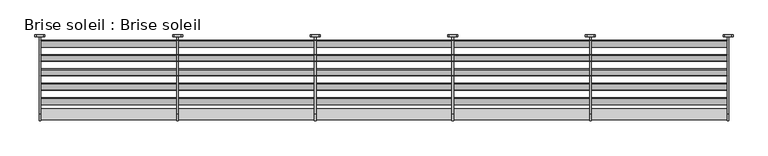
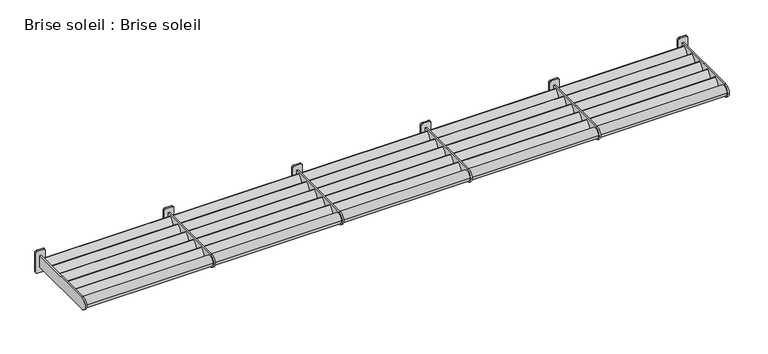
"""IFC4 building model written with IfcOpenShell, lengths in millimetres: proxy geometry, Brise soleil : Brise soleil."""

from ifc_helpers import new_model, si_unit, point, frame, frame_2d, origin, place, context, project, spatial, circle_curve, trimmed, segment, composite_curve, outline, extrude, source, transform, mapped, element, save
from ifc_brep_helpers import plane_surface, cylinder_surface, advanced_brep


def brise_soleil_brise_soleil_92fbaf2c(model_context):
    return source(origin(), model_context, "Body", "SolidModel", [
        advanced_brep(
        [(6637.2386116, -20.0, 1107.5), (6557.2386116, -20.0, 1107.5), (6537.2386116, -20.0, 1087.5), (6537.2386116, -20.0, 827.5), (6557.2386116, -20.0, 807.5), (6637.2386116, -20.0, 807.5), (6657.2386116, -20.0, 827.5), (6657.2386116, -20.0, 1087.5), (6607.2386116, -20.0, 1037.5), (6607.2386116, -20.0, 877.5), (6587.2386116, -20.0, 877.5), (6587.2386116, -20.0, 1037.5), (6637.2386116, 0.0, 1107.5), (6657.2386116, 0.0, 1087.5), (6657.2386116, 0.0, 827.5), (6637.2386116, 0.0, 807.5), (6557.2386116, 0.0, 807.5), (6537.2386116, 0.0, 827.5), (6537.2386116, 0.0, 1087.5), (6557.2386116, 0.0, 1107.5), (6607.2386116, -950.0, 1037.5), (6607.2386116, -950.0, 877.5), (6587.2386116, -950.0, 877.5), (6587.2386116, -950.0, 1037.5)],
        [
            (0, 1),
            (1, 2, circle_curve(frame((6557.2386116, -20.0, 1087.5), z_axis=(0.0, -1.0, 0.0), x_axis=(1.0, 0.0, 0.0)), 20.0)),
            (2, 3),
            (3, 4, circle_curve(frame((6557.2386116, -20.0, 827.5), z_axis=(0.0, -1.0, 0.0), x_axis=(1.0, 0.0, 0.0)), 20.0)),
            (4, 5),
            (5, 6, circle_curve(frame((6637.2386116, -20.0, 827.5), z_axis=(0.0, -1.0, 0.0), x_axis=(1.0, 0.0, 0.0)), 20.0)),
            (6, 7),
            (7, 0, circle_curve(frame((6637.2386116, -20.0, 1087.5), z_axis=(0.0, -1.0, 0.0), x_axis=(1.0, 0.0, 0.0)), 20.0)),
            (8, 9),
            (9, 10),
            (10, 11),
            (11, 8),
            (12, 13, circle_curve(frame((6637.2386116, 0.0, 1087.5), z_axis=(0.0, 1.0, 0.0), x_axis=(1.0, 0.0, 0.0)), 20.0)),
            (13, 14),
            (14, 15, circle_curve(frame((6637.2386116, 0.0, 827.5), z_axis=(0.0, 1.0, 0.0), x_axis=(1.0, 0.0, 0.0)), 20.0)),
            (15, 16),
            (16, 17, circle_curve(frame((6557.2386116, 0.0, 827.5), z_axis=(0.0, 1.0, 0.0), x_axis=(1.0, 0.0, 0.0)), 20.0)),
            (17, 18),
            (18, 19, circle_curve(frame((6557.2386116, 0.0, 1087.5), z_axis=(0.0, 1.0, 0.0), x_axis=(1.0, 0.0, 0.0)), 20.0)),
            (19, 12),
            (0, 12),
            (19, 1),
            (18, 2),
            (17, 3),
            (16, 4),
            (15, 5),
            (14, 6),
            (13, 7),
            (20, 21, circle_curve(frame((6607.2386116, -950.0, 957.5), z_axis=(1.0, 0.0, 0.0), x_axis=(0.0, 1.0, 0.0)), 80.0)),
            (21, 9),
            (8, 20),
            (22, 23, circle_curve(frame((6587.2386116, -950.0, 957.5), z_axis=(-1.0, 0.0, 0.0), x_axis=(0.0, 1.0, 0.0)), 80.0)),
            (23, 11),
            (10, 22),
            (20, 23),
            (22, 21),
        ],
        [
            plane_surface(frame((6476.6173054, -20.0, 1107.5), z_axis=(0.0, -1.0, 0.0), x_axis=(-1.0, 0.0, 0.0))),
            plane_surface(frame((6476.6173054, 0.0, 1107.5), z_axis=(0.0, 1.0, 0.0), x_axis=(1.0, 0.0, 0.0))),
            plane_surface(frame((6637.2386116, -20.0, 1107.5), z_axis=(0.0, 0.0, 1.0), x_axis=(0.0, 1.0, 0.0))),
            cylinder_surface(frame((6557.2386116, 0.0, 1087.5), z_axis=(0.0, -1.0, 0.0), x_axis=(1.0, 0.0, 0.0)), 20.0),
            plane_surface(frame((6537.2386116, -20.0, 1087.5), z_axis=(-1.0, 0.0, 0.0), x_axis=(0.0, 1.0, 0.0))),
            cylinder_surface(frame((6557.2386116, 0.0, 827.5), z_axis=(0.0, -1.0, 0.0), x_axis=(1.0, 0.0, 0.0)), 20.0),
            plane_surface(frame((6557.2386116, -20.0, 807.5), z_axis=(0.0, 0.0, -1.0), x_axis=(0.0, 1.0, 0.0))),
            cylinder_surface(frame((6637.2386116, 0.0, 827.5), z_axis=(0.0, -1.0, 0.0), x_axis=(1.0, 0.0, 0.0)), 20.0),
            plane_surface(frame((6657.2386116, -20.0, 827.5), z_axis=(1.0, 0.0, 0.0), x_axis=(0.0, 1.0, 0.0))),
            cylinder_surface(frame((6637.2386116, 0.0, 1087.5), z_axis=(0.0, -1.0, 0.0), x_axis=(1.0, 0.0, 0.0)), 20.0),
            plane_surface(frame((6607.2386116, -870.0, 957.5), z_axis=(1.0, 0.0, 0.0), x_axis=(0.0, 0.0, 1.0))),
            plane_surface(frame((6587.2386116, -870.0, 957.5), z_axis=(-1.0, 0.0, 0.0), x_axis=(0.0, 0.0, -1.0))),
            cylinder_surface(frame((6587.2386116, -950.0, 957.5), z_axis=(1.0, 0.0, 0.0), x_axis=(0.0, 1.0, 0.0)), 80.0),
            plane_surface(frame((6607.2386116, -950.0, 877.5), z_axis=(0.0, 0.0, -1.0), x_axis=(-1.0, 0.0, 0.0))),
            plane_surface(frame((6607.2386116, 0.0, 1037.5), z_axis=(0.0, 0.0, 1.0), x_axis=(-1.0, 0.0, 0.0))),
        ],
        [
            (0, [[1, 2, 3, 4, 5, 6, 7, 8], [9, 10, 11, 12]]),
            (1, [[13, 14, 15, 16, 17, 18, 19, 20]]),
            (2, [[-1, 21, -20, 22]]),
            (3, [[-2, -22, -19, 23]]),
            (4, [[-3, -23, -18, 24]]),
            (5, [[-4, -24, -17, 25]]),
            (6, [[-5, -25, -16, 26]]),
            (7, [[-6, -26, -15, 27]]),
            (8, [[-7, -27, -14, 28]]),
            (9, [[-8, -28, -13, -21]]),
            (10, [[29, 30, -9, 31]]),
            (11, [[32, 33, -11, 34]]),
            (12, [[-29, 35, -32, 36]]),
            (13, [[-36, -34, -10, -30]]),
            (14, [[-35, -31, -12, -33]]),
        ],
    ),
        advanced_brep(
        [(4990.4289587, -20.0, 1107.5), (4910.4289587, -20.0, 1107.5), (4890.4289587, -20.0, 1087.5), (4890.4289587, -20.0, 827.5), (4910.4289587, -20.0, 807.5), (4990.4289587, -20.0, 807.5), (5010.4289587, -20.0, 827.5), (5010.4289587, -20.0, 1087.5), (4960.4289587, -20.0, 1037.5), (4960.4289587, -20.0, 877.5), (4940.4289587, -20.0, 877.5), (4940.4289587, -20.0, 1037.5), (4990.4289587, 0.0, 1107.5), (5010.4289587, 0.0, 1087.5), (5010.4289587, 0.0, 827.5), (4990.4289587, 0.0, 807.5), (4910.4289587, 0.0, 807.5), (4890.4289587, 0.0, 827.5), (4890.4289587, 0.0, 1087.5), (4910.4289587, 0.0, 1107.5), (4960.4289587, -950.0, 1037.5), (4960.4289587, -950.0, 877.5), (4940.4289587, -950.0, 877.5), (4940.4289587, -950.0, 1037.5)],
        [
            (0, 1),
            (1, 2, circle_curve(frame((4910.4289587, -20.0, 1087.5), z_axis=(0.0, -1.0, 0.0), x_axis=(1.0, 0.0, 0.0)), 20.0)),
            (2, 3),
            (3, 4, circle_curve(frame((4910.4289587, -20.0, 827.5), z_axis=(0.0, -1.0, 0.0), x_axis=(1.0, 0.0, 0.0)), 20.0)),
            (4, 5),
            (5, 6, circle_curve(frame((4990.4289587, -20.0, 827.5), z_axis=(0.0, -1.0, 0.0), x_axis=(1.0, 0.0, 0.0)), 20.0)),
            (6, 7),
            (7, 0, circle_curve(frame((4990.4289587, -20.0, 1087.5), z_axis=(0.0, -1.0, 0.0), x_axis=(1.0, 0.0, 0.0)), 20.0)),
            (8, 9),
            (9, 10),
            (10, 11),
            (11, 8),
            (12, 13, circle_curve(frame((4990.4289587, 0.0, 1087.5), z_axis=(0.0, 1.0, 0.0), x_axis=(1.0, 0.0, 0.0)), 20.0)),
            (13, 14),
            (14, 15, circle_curve(frame((4990.4289587, 0.0, 827.5), z_axis=(0.0, 1.0, 0.0), x_axis=(1.0, 0.0, 0.0)), 20.0)),
            (15, 16),
            (16, 17, circle_curve(frame((4910.4289587, 0.0, 827.5), z_axis=(0.0, 1.0, 0.0), x_axis=(1.0, 0.0, 0.0)), 20.0)),
            (17, 18),
            (18, 19, circle_curve(frame((4910.4289587, 0.0, 1087.5), z_axis=(0.0, 1.0, 0.0), x_axis=(1.0, 0.0, 0.0)), 20.0)),
            (19, 12),
            (0, 12),
            (19, 1),
            (18, 2),
            (17, 3),
            (16, 4),
            (15, 5),
            (14, 6),
            (13, 7),
            (20, 21, circle_curve(frame((4960.4289587, -950.0, 957.5), z_axis=(1.0, 0.0, 0.0), x_axis=(0.0, 1.0, 0.0)), 80.0)),
            (21, 9),
            (8, 20),
            (22, 23, circle_curve(frame((4940.4289587, -950.0, 957.5), z_axis=(-1.0, 0.0, 0.0), x_axis=(0.0, 1.0, 0.0)), 80.0)),
            (23, 11),
            (10, 22),
            (20, 23),
            (22, 21),
        ],
        [
            plane_surface(frame((4829.8076525, -20.0, 1107.5), z_axis=(0.0, -1.0, 0.0), x_axis=(-1.0, 0.0, 0.0))),
            plane_surface(frame((4829.8076525, 0.0, 1107.5), z_axis=(0.0, 1.0, 0.0), x_axis=(1.0, 0.0, 0.0))),
            plane_surface(frame((4990.4289587, -20.0, 1107.5), z_axis=(0.0, 0.0, 1.0), x_axis=(0.0, 1.0, 0.0))),
            cylinder_surface(frame((4910.4289587, 0.0, 1087.5), z_axis=(0.0, -1.0, 0.0), x_axis=(1.0, 0.0, 0.0)), 20.0),
            plane_surface(frame((4890.4289587, -20.0, 1087.5), z_axis=(-1.0, 0.0, 0.0), x_axis=(0.0, 1.0, 0.0))),
            cylinder_surface(frame((4910.4289587, 0.0, 827.5), z_axis=(0.0, -1.0, 0.0), x_axis=(1.0, 0.0, 0.0)), 20.0),
            plane_surface(frame((4910.4289587, -20.0, 807.5), z_axis=(0.0, 0.0, -1.0), x_axis=(0.0, 1.0, 0.0))),
            cylinder_surface(frame((4990.4289587, 0.0, 827.5), z_axis=(0.0, -1.0, 0.0), x_axis=(1.0, 0.0, 0.0)), 20.0),
            plane_surface(frame((5010.4289587, -20.0, 827.5), z_axis=(1.0, 0.0, 0.0), x_axis=(0.0, 1.0, 0.0))),
            cylinder_surface(frame((4990.4289587, 0.0, 1087.5), z_axis=(0.0, -1.0, 0.0), x_axis=(1.0, 0.0, 0.0)), 20.0),
            plane_surface(frame((4960.4289587, -870.0, 957.5), z_axis=(1.0, 0.0, 0.0), x_axis=(0.0, 0.0, 1.0))),
            plane_surface(frame((4940.4289587, -870.0, 957.5), z_axis=(-1.0, 0.0, 0.0), x_axis=(0.0, 0.0, -1.0))),
            cylinder_surface(frame((4940.4289587, -950.0, 957.5), z_axis=(1.0, 0.0, 0.0), x_axis=(0.0, 1.0, 0.0)), 80.0),
            plane_surface(frame((4960.4289587, -950.0, 877.5), z_axis=(0.0, 0.0, -1.0), x_axis=(-1.0, 0.0, 0.0))),
            plane_surface(frame((4960.4289587, 0.0, 1037.5), z_axis=(0.0, 0.0, 1.0), x_axis=(-1.0, 0.0, 0.0))),
        ],
        [
            (0, [[1, 2, 3, 4, 5, 6, 7, 8], [9, 10, 11, 12]]),
            (1, [[13, 14, 15, 16, 17, 18, 19, 20]]),
            (2, [[-1, 21, -20, 22]]),
            (3, [[-2, -22, -19, 23]]),
            (4, [[-3, -23, -18, 24]]),
            (5, [[-4, -24, -17, 25]]),
            (6, [[-5, -25, -16, 26]]),
            (7, [[-6, -26, -15, 27]]),
            (8, [[-7, -27, -14, 28]]),
            (9, [[-8, -28, -13, -21]]),
            (10, [[29, 30, -9, 31]]),
            (11, [[32, 33, -11, 34]]),
            (12, [[-29, 35, -32, 36]]),
            (13, [[-36, -34, -10, -30]]),
            (14, [[-35, -31, -12, -33]]),
        ],
    ),
        advanced_brep(
        [(3343.6193058, -20.0, 1107.5), (3263.6193058, -20.0, 1107.5), (3243.6193058, -20.0, 1087.5), (3243.6193058, -20.0, 827.5), (3263.6193058, -20.0, 807.5), (3343.6193058, -20.0, 807.5), (3363.6193058, -20.0, 827.5), (3363.6193058, -20.0, 1087.5), (3313.6193058, -20.0, 1037.5), (3313.6193058, -20.0, 877.5), (3293.6193058, -20.0, 877.5), (3293.6193058, -20.0, 1037.5), (3343.6193058, 0.0, 1107.5), (3363.6193058, 0.0, 1087.5), (3363.6193058, 0.0, 827.5), (3343.6193058, 0.0, 807.5), (3263.6193058, 0.0, 807.5), (3243.6193058, 0.0, 827.5), (3243.6193058, 0.0, 1087.5), (3263.6193058, 0.0, 1107.5), (3313.6193058, -950.0, 1037.5), (3313.6193058, -950.0, 877.5), (3293.6193058, -950.0, 877.5), (3293.6193058, -950.0, 1037.5)],
        [
            (0, 1),
            (1, 2, circle_curve(frame((3263.6193058, -20.0, 1087.5), z_axis=(0.0, -1.0, 0.0), x_axis=(1.0, 0.0, 0.0)), 20.0)),
            (2, 3),
            (3, 4, circle_curve(frame((3263.6193058, -20.0, 827.5), z_axis=(0.0, -1.0, 0.0), x_axis=(1.0, 0.0, 0.0)), 20.0)),
            (4, 5),
            (5, 6, circle_curve(frame((3343.6193058, -20.0, 827.5), z_axis=(0.0, -1.0, 0.0), x_axis=(1.0, 0.0, 0.0)), 20.0)),
            (6, 7),
            (7, 0, circle_curve(frame((3343.6193058, -20.0, 1087.5), z_axis=(0.0, -1.0, 0.0), x_axis=(1.0, 0.0, 0.0)), 20.0)),
            (8, 9),
            (9, 10),
            (10, 11),
            (11, 8),
            (12, 13, circle_curve(frame((3343.6193058, 0.0, 1087.5), z_axis=(0.0, 1.0, 0.0), x_axis=(1.0, 0.0, 0.0)), 20.0)),
            (13, 14),
            (14, 15, circle_curve(frame((3343.6193058, 0.0, 827.5), z_axis=(0.0, 1.0, 0.0), x_axis=(1.0, 0.0, 0.0)), 20.0)),
            (15, 16),
            (16, 17, circle_curve(frame((3263.6193058, 0.0, 827.5), z_axis=(0.0, 1.0, 0.0), x_axis=(1.0, 0.0, 0.0)), 20.0)),
            (17, 18),
            (18, 19, circle_curve(frame((3263.6193058, 0.0, 1087.5), z_axis=(0.0, 1.0, 0.0), x_axis=(1.0, 0.0, 0.0)), 20.0)),
            (19, 12),
            (0, 12),
            (19, 1),
            (18, 2),
            (17, 3),
            (16, 4),
            (15, 5),
            (14, 6),
            (13, 7),
            (20, 21, circle_curve(frame((3313.6193058, -950.0, 957.5), z_axis=(1.0, 0.0, 0.0), x_axis=(0.0, 1.0, 0.0)), 80.0)),
            (21, 9),
            (8, 20),
            (22, 23, circle_curve(frame((3293.6193058, -950.0, 957.5), z_axis=(-1.0, 0.0, 0.0), x_axis=(0.0, 1.0, 0.0)), 80.0)),
            (23, 11),
            (10, 22),
            (20, 23),
            (22, 21),
        ],
        [
            plane_surface(frame((3182.9979996, -20.0, 1107.5), z_axis=(0.0, -1.0, 0.0), x_axis=(-1.0, 0.0, 0.0))),
            plane_surface(frame((3182.9979996, 0.0, 1107.5), z_axis=(0.0, 1.0, 0.0), x_axis=(1.0, 0.0, 0.0))),
            plane_surface(frame((3343.6193058, -20.0, 1107.5), z_axis=(0.0, 0.0, 1.0), x_axis=(0.0, 1.0, 0.0))),
            cylinder_surface(frame((3263.6193058, 0.0, 1087.5), z_axis=(0.0, -1.0, 0.0), x_axis=(1.0, 0.0, 0.0)), 20.0),
            plane_surface(frame((3243.6193058, -20.0, 1087.5), z_axis=(-1.0, 0.0, 0.0), x_axis=(0.0, 1.0, 0.0))),
            cylinder_surface(frame((3263.6193058, 0.0, 827.5), z_axis=(0.0, -1.0, 0.0), x_axis=(1.0, 0.0, 0.0)), 20.0),
            plane_surface(frame((3263.6193058, -20.0, 807.5), z_axis=(0.0, 0.0, -1.0), x_axis=(0.0, 1.0, 0.0))),
            cylinder_surface(frame((3343.6193058, 0.0, 827.5), z_axis=(0.0, -1.0, 0.0), x_axis=(1.0, 0.0, 0.0)), 20.0),
            plane_surface(frame((3363.6193058, -20.0, 827.5), z_axis=(1.0, 0.0, 0.0), x_axis=(0.0, 1.0, 0.0))),
            cylinder_surface(frame((3343.6193058, 0.0, 1087.5), z_axis=(0.0, -1.0, 0.0), x_axis=(1.0, 0.0, 0.0)), 20.0),
            plane_surface(frame((3313.6193058, -870.0, 957.5), z_axis=(1.0, 0.0, 0.0), x_axis=(0.0, 0.0, 1.0))),
            plane_surface(frame((3293.6193058, -870.0, 957.5), z_axis=(-1.0, 0.0, 0.0), x_axis=(0.0, 0.0, -1.0))),
            cylinder_surface(frame((3293.6193058, -950.0, 957.5), z_axis=(1.0, 0.0, 0.0), x_axis=(0.0, 1.0, 0.0)), 80.0),
            plane_surface(frame((3313.6193058, -950.0, 877.5), z_axis=(0.0, 0.0, -1.0), x_axis=(-1.0, 0.0, 0.0))),
            plane_surface(frame((3313.6193058, 0.0, 1037.5), z_axis=(0.0, 0.0, 1.0), x_axis=(-1.0, 0.0, 0.0))),
        ],
        [
            (0, [[1, 2, 3, 4, 5, 6, 7, 8], [9, 10, 11, 12]]),
            (1, [[13, 14, 15, 16, 17, 18, 19, 20]]),
            (2, [[-1, 21, -20, 22]]),
            (3, [[-2, -22, -19, 23]]),
            (4, [[-3, -23, -18, 24]]),
            (5, [[-4, -24, -17, 25]]),
            (6, [[-5, -25, -16, 26]]),
            (7, [[-6, -26, -15, 27]]),
            (8, [[-7, -27, -14, 28]]),
            (9, [[-8, -28, -13, -21]]),
            (10, [[29, 30, -9, 31]]),
            (11, [[32, 33, -11, 34]]),
            (12, [[-29, 35, -32, 36]]),
            (13, [[-36, -34, -10, -30]]),
            (14, [[-35, -31, -12, -33]]),
        ],
    ),
        advanced_brep(
        [(1696.8096529, -20.0, 1107.5), (1616.8096529, -20.0, 1107.5), (1596.8096529, -20.0, 1087.5), (1596.8096529, -20.0, 827.5), (1616.8096529, -20.0, 807.5), (1696.8096529, -20.0, 807.5), (1716.8096529, -20.0, 827.5), (1716.8096529, -20.0, 1087.5), (1666.8096529, -20.0, 1037.5), (1666.8096529, -20.0, 877.5), (1646.8096529, -20.0, 877.5), (1646.8096529, -20.0, 1037.5), (1696.8096529, 0.0, 1107.5), (1716.8096529, 0.0, 1087.5), (1716.8096529, 0.0, 827.5), (1696.8096529, 0.0, 807.5), (1616.8096529, 0.0, 807.5), (1596.8096529, 0.0, 827.5), (1596.8096529, 0.0, 1087.5), (1616.8096529, 0.0, 1107.5), (1666.8096529, -950.0, 1037.5), (1666.8096529, -950.0, 877.5), (1646.8096529, -950.0, 877.5), (1646.8096529, -950.0, 1037.5)],
        [
            (0, 1),
            (1, 2, circle_curve(frame((1616.8096529, -20.0, 1087.5), z_axis=(0.0, -1.0, 0.0), x_axis=(1.0, 0.0, 0.0)), 20.0)),
            (2, 3),
            (3, 4, circle_curve(frame((1616.8096529, -20.0, 827.5), z_axis=(0.0, -1.0, 0.0), x_axis=(1.0, 0.0, 0.0)), 20.0)),
            (4, 5),
            (5, 6, circle_curve(frame((1696.8096529, -20.0, 827.5), z_axis=(0.0, -1.0, 0.0), x_axis=(1.0, 0.0, 0.0)), 20.0)),
            (6, 7),
            (7, 0, circle_curve(frame((1696.8096529, -20.0, 1087.5), z_axis=(0.0, -1.0, 0.0), x_axis=(1.0, 0.0, 0.0)), 20.0)),
            (8, 9),
            (9, 10),
            (10, 11),
            (11, 8),
            (12, 13, circle_curve(frame((1696.8096529, 0.0, 1087.5), z_axis=(0.0, 1.0, 0.0), x_axis=(1.0, 0.0, 0.0)), 20.0)),
            (13, 14),
            (14, 15, circle_curve(frame((1696.8096529, 0.0, 827.5), z_axis=(0.0, 1.0, 0.0), x_axis=(1.0, 0.0, 0.0)), 20.0)),
            (15, 16),
            (16, 17, circle_curve(frame((1616.8096529, 0.0, 827.5), z_axis=(0.0, 1.0, 0.0), x_axis=(1.0, 0.0, 0.0)), 20.0)),
            (17, 18),
            (18, 19, circle_curve(frame((1616.8096529, 0.0, 1087.5), z_axis=(0.0, 1.0, 0.0), x_axis=(1.0, 0.0, 0.0)), 20.0)),
            (19, 12),
            (0, 12),
            (19, 1),
            (18, 2),
            (17, 3),
            (16, 4),
            (15, 5),
            (14, 6),
            (13, 7),
            (20, 21, circle_curve(frame((1666.8096529, -950.0, 957.5), z_axis=(1.0, 0.0, 0.0), x_axis=(0.0, 1.0, 0.0)), 80.0)),
            (21, 9),
            (8, 20),
            (22, 23, circle_curve(frame((1646.8096529, -950.0, 957.5), z_axis=(-1.0, 0.0, 0.0), x_axis=(0.0, 1.0, 0.0)), 80.0)),
            (23, 11),
            (10, 22),
            (20, 23),
            (22, 21),
        ],
        [
            plane_surface(frame((1536.1883467, -20.0, 1107.5), z_axis=(0.0, -1.0, 0.0), x_axis=(-1.0, 0.0, 0.0))),
            plane_surface(frame((1536.1883467, 0.0, 1107.5), z_axis=(0.0, 1.0, 0.0), x_axis=(1.0, 0.0, 0.0))),
            plane_surface(frame((1696.8096529, -20.0, 1107.5), z_axis=(0.0, 0.0, 1.0), x_axis=(0.0, 1.0, 0.0))),
            cylinder_surface(frame((1616.8096529, 0.0, 1087.5), z_axis=(0.0, -1.0, 0.0), x_axis=(1.0, 0.0, 0.0)), 20.0),
            plane_surface(frame((1596.8096529, -20.0, 1087.5), z_axis=(-1.0, 0.0, 0.0), x_axis=(0.0, 1.0, 0.0))),
            cylinder_surface(frame((1616.8096529, 0.0, 827.5), z_axis=(0.0, -1.0, 0.0), x_axis=(1.0, 0.0, 0.0)), 20.0),
            plane_surface(frame((1616.8096529, -20.0, 807.5), z_axis=(0.0, 0.0, -1.0), x_axis=(0.0, 1.0, 0.0))),
            cylinder_surface(frame((1696.8096529, 0.0, 827.5), z_axis=(0.0, -1.0, 0.0), x_axis=(1.0, 0.0, 0.0)), 20.0),
            plane_surface(frame((1716.8096529, -20.0, 827.5), z_axis=(1.0, 0.0, 0.0), x_axis=(0.0, 1.0, 0.0))),
            cylinder_surface(frame((1696.8096529, 0.0, 1087.5), z_axis=(0.0, -1.0, 0.0), x_axis=(1.0, 0.0, 0.0)), 20.0),
            plane_surface(frame((1666.8096529, -870.0, 957.5), z_axis=(1.0, 0.0, 0.0), x_axis=(0.0, 0.0, 1.0))),
            plane_surface(frame((1646.8096529, -870.0, 957.5), z_axis=(-1.0, 0.0, 0.0), x_axis=(0.0, 0.0, -1.0))),
            cylinder_surface(frame((1646.8096529, -950.0, 957.5), z_axis=(1.0, 0.0, 0.0), x_axis=(0.0, 1.0, 0.0)), 80.0),
            plane_surface(frame((1666.8096529, -950.0, 877.5), z_axis=(0.0, 0.0, -1.0), x_axis=(-1.0, 0.0, 0.0))),
            plane_surface(frame((1666.8096529, 0.0, 1037.5), z_axis=(0.0, 0.0, 1.0), x_axis=(-1.0, 0.0, 0.0))),
        ],
        [
            (0, [[1, 2, 3, 4, 5, 6, 7, 8], [9, 10, 11, 12]]),
            (1, [[13, 14, 15, 16, 17, 18, 19, 20]]),
            (2, [[-1, 21, -20, 22]]),
            (3, [[-2, -22, -19, 23]]),
            (4, [[-3, -23, -18, 24]]),
            (5, [[-4, -24, -17, 25]]),
            (6, [[-5, -25, -16, 26]]),
            (7, [[-6, -26, -15, 27]]),
            (8, [[-7, -27, -14, 28]]),
            (9, [[-8, -28, -13, -21]]),
            (10, [[29, 30, -9, 31]]),
            (11, [[32, 33, -11, 34]]),
            (12, [[-29, 35, -32, 36]]),
            (13, [[-36, -34, -10, -30]]),
            (14, [[-35, -31, -12, -33]]),
        ],
    ),
        extrude(outline(composite_curve([segment(trimmed(circle_curve(frame_2d((-131.1196352, 870.0937882)), 187.4135018), [point((-317.3614097, 891.0179864))], [point((-242.3614097, 1020.921797))], False, "CARTESIAN"), True, "CONTINUOUS"), segment(trimmed(circle_curve(frame_2d((-239.3935933, 1016.8978604)), 5.0), [point((-242.3614097, 1020.921797))], [point((-236.4257768, 1012.8739239))], False, "CARTESIAN"), True, "CONTINUOUS"), segment(trimmed(circle_curve(frame_2d((-131.1196352, 870.0937882)), 177.4135018), [point((-236.4257768, 1012.8739239))], [point((-307.4239307, 889.9015141))], True, "CARTESIAN"), True, "CONTINUOUS"), segment(trimmed(circle_curve(frame_2d((-312.3926702, 890.4597503)), 5.0), [point((-307.4239307, 889.9015141))], [point((-317.3614097, 891.0179864))], False, "CARTESIAN"), True, "CONTINUOUS")], self_intersect=False)), frame((20.0, 0.0, 0.0), z_axis=(1.0, 0.0, 0.0), x_axis=(0.0, 1.0, 0.0)), (0.0, 0.0, 1.0), 8214.0482645),
        extrude(outline(composite_curve([segment(trimmed(circle_curve(frame_2d((-303.6196352, 870.0937882)), 187.4135018), [point((-489.8614097, 891.0179864))], [point((-414.8614097, 1020.921797))], False, "CARTESIAN"), True, "CONTINUOUS"), segment(trimmed(circle_curve(frame_2d((-411.8935933, 1016.8978604)), 5.0), [point((-414.8614097, 1020.921797))], [point((-408.9257768, 1012.8739239))], False, "CARTESIAN"), True, "CONTINUOUS"), segment(trimmed(circle_curve(frame_2d((-303.6196352, 870.0937882)), 177.4135018), [point((-408.9257768, 1012.8739239))], [point((-479.9239307, 889.9015141))], True, "CARTESIAN"), True, "CONTINUOUS"), segment(trimmed(circle_curve(frame_2d((-484.8926702, 890.4597503)), 5.0), [point((-479.9239307, 889.9015141))], [point((-489.8614097, 891.0179864))], False, "CARTESIAN"), True, "CONTINUOUS")], self_intersect=False)), frame((20.0, 0.0, 0.0), z_axis=(1.0, 0.0, 0.0), x_axis=(0.0, 1.0, 0.0)), (0.0, 0.0, 1.0), 8214.0482645),
        extrude(outline(composite_curve([segment(trimmed(circle_curve(frame_2d((-476.1196352, 870.0937882)), 187.4135018), [point((-662.3614097, 891.0179864))], [point((-587.3614097, 1020.921797))], False, "CARTESIAN"), True, "CONTINUOUS"), segment(trimmed(circle_curve(frame_2d((-584.3935933, 1016.8978604)), 5.0), [point((-587.3614097, 1020.921797))], [point((-581.4257768, 1012.8739239))], False, "CARTESIAN"), True, "CONTINUOUS"), segment(trimmed(circle_curve(frame_2d((-476.1196352, 870.0937882)), 177.4135018), [point((-581.4257768, 1012.8739239))], [point((-652.4239307, 889.9015141))], True, "CARTESIAN"), True, "CONTINUOUS"), segment(trimmed(circle_curve(frame_2d((-657.3926702, 890.4597503)), 5.0), [point((-652.4239307, 889.9015141))], [point((-662.3614097, 891.0179864))], False, "CARTESIAN"), True, "CONTINUOUS")], self_intersect=False)), frame((20.0, 0.0, 0.0), z_axis=(1.0, 0.0, 0.0), x_axis=(0.0, 1.0, 0.0)), (0.0, 0.0, 1.0), 8214.0482645),
        extrude(outline(composite_curve([segment(trimmed(circle_curve(frame_2d((41.3803648, 870.0937882)), 187.4135018), [point((-144.8614097, 891.0179864))], [point((-69.8614097, 1020.921797))], False, "CARTESIAN"), True, "CONTINUOUS"), segment(trimmed(circle_curve(frame_2d((-66.8935933, 1016.8978604)), 5.0), [point((-69.8614097, 1020.921797))], [point((-63.9257768, 1012.8739239))], False, "CARTESIAN"), True, "CONTINUOUS"), segment(trimmed(circle_curve(frame_2d((41.3803648, 870.0937882)), 177.4135018), [point((-63.9257768, 1012.8739239))], [point((-134.9239307, 889.9015141))], True, "CARTESIAN"), True, "CONTINUOUS"), segment(trimmed(circle_curve(frame_2d((-139.8926702, 890.4597503)), 5.0), [point((-134.9239307, 889.9015141))], [point((-144.8614097, 891.0179864))], False, "CARTESIAN"), True, "CONTINUOUS")], self_intersect=False)), frame((20.0, 0.0, 0.0), z_axis=(1.0, 0.0, 0.0), x_axis=(0.0, 1.0, 0.0)), (0.0, 0.0, 1.0), 8214.0482645),
        extrude(outline(composite_curve([segment(trimmed(circle_curve(frame_2d((-648.6196352, 870.0937882)), 187.4135018), [point((-834.8614097, 891.0179864))], [point((-759.8614097, 1020.921797))], False, "CARTESIAN"), True, "CONTINUOUS"), segment(trimmed(circle_curve(frame_2d((-756.8935933, 1016.8978604)), 5.0), [point((-759.8614097, 1020.921797))], [point((-753.9257768, 1012.8739239))], False, "CARTESIAN"), True, "CONTINUOUS"), segment(trimmed(circle_curve(frame_2d((-648.6196352, 870.0937882)), 177.4135018), [point((-753.9257768, 1012.8739239))], [point((-824.9239307, 889.9015141))], True, "CARTESIAN"), True, "CONTINUOUS"), segment(trimmed(circle_curve(frame_2d((-829.8926702, 890.4597503)), 5.0), [point((-824.9239307, 889.9015141))], [point((-834.8614097, 891.0179864))], False, "CARTESIAN"), True, "CONTINUOUS")], self_intersect=False)), frame((20.0, 0.0, 0.0), z_axis=(1.0, 0.0, 0.0), x_axis=(0.0, 1.0, 0.0)), (0.0, 0.0, 1.0), 8214.0482645),
        advanced_brep(
        [(8284.0482645, -20.0, 1107.5), (8204.0482645, -20.0, 1107.5), (8184.0482645, -20.0, 1087.5), (8184.0482645, -20.0, 827.5), (8204.0482645, -20.0, 807.5), (8284.0482645, -20.0, 807.5), (8304.0482645, -20.0, 827.5), (8304.0482645, -20.0, 1087.5), (8254.0482645, -20.0, 1037.5), (8254.0482645, -20.0, 877.5), (8234.0482645, -20.0, 877.5), (8234.0482645, -20.0, 1037.5), (8284.0482645, 0.0, 1107.5), (8304.0482645, 0.0, 1087.5), (8304.0482645, 0.0, 827.5), (8284.0482645, 0.0, 807.5), (8204.0482645, 0.0, 807.5), (8184.0482645, 0.0, 827.5), (8184.0482645, 0.0, 1087.5), (8204.0482645, 0.0, 1107.5), (8254.0482645, -950.0, 1037.5), (8254.0482645, -950.0, 877.5), (8234.0482645, -950.0, 877.5), (8234.0482645, -950.0, 1037.5)],
        [
            (0, 1),
            (1, 2, circle_curve(frame((8204.0482645, -20.0, 1087.5), z_axis=(0.0, -1.0, 0.0), x_axis=(1.0, 0.0, 0.0)), 20.0)),
            (2, 3),
            (3, 4, circle_curve(frame((8204.0482645, -20.0, 827.5), z_axis=(0.0, -1.0, 0.0), x_axis=(1.0, 0.0, 0.0)), 20.0)),
            (4, 5),
            (5, 6, circle_curve(frame((8284.0482645, -20.0, 827.5), z_axis=(0.0, -1.0, 0.0), x_axis=(1.0, 0.0, 0.0)), 20.0)),
            (6, 7),
            (7, 0, circle_curve(frame((8284.0482645, -20.0, 1087.5), z_axis=(0.0, -1.0, 0.0), x_axis=(1.0, 0.0, 0.0)), 20.0)),
            (8, 9),
            (9, 10),
            (10, 11),
            (11, 8),
            (12, 13, circle_curve(frame((8284.0482645, 0.0, 1087.5), z_axis=(0.0, 1.0, 0.0), x_axis=(1.0, 0.0, 0.0)), 20.0)),
            (13, 14),
            (14, 15, circle_curve(frame((8284.0482645, 0.0, 827.5), z_axis=(0.0, 1.0, 0.0), x_axis=(1.0, 0.0, 0.0)), 20.0)),
            (15, 16),
            (16, 17, circle_curve(frame((8204.0482645, 0.0, 827.5), z_axis=(0.0, 1.0, 0.0), x_axis=(1.0, 0.0, 0.0)), 20.0)),
            (17, 18),
            (18, 19, circle_curve(frame((8204.0482645, 0.0, 1087.5), z_axis=(0.0, 1.0, 0.0), x_axis=(1.0, 0.0, 0.0)), 20.0)),
            (19, 12),
            (0, 12),
            (19, 1),
            (18, 2),
            (17, 3),
            (16, 4),
            (15, 5),
            (14, 6),
            (13, 7),
            (20, 21, circle_curve(frame((8254.0482645, -950.0, 957.5), z_axis=(1.0, 0.0, 0.0), x_axis=(0.0, 1.0, 0.0)), 80.0)),
            (21, 9),
            (8, 20),
            (22, 23, circle_curve(frame((8234.0482645, -950.0, 957.5), z_axis=(-1.0, 0.0, 0.0), x_axis=(0.0, 1.0, 0.0)), 80.0)),
            (23, 11),
            (10, 22),
            (20, 23),
            (22, 21),
        ],
        [
            plane_surface(frame((8123.4269583, -20.0, 1107.5), z_axis=(0.0, -1.0, 0.0), x_axis=(-1.0, 0.0, 0.0))),
            plane_surface(frame((8123.4269583, 0.0, 1107.5), z_axis=(0.0, 1.0, 0.0), x_axis=(1.0, 0.0, 0.0))),
            plane_surface(frame((8284.0482645, -20.0, 1107.5), z_axis=(0.0, 0.0, 1.0), x_axis=(0.0, 1.0, 0.0))),
            cylinder_surface(frame((8204.0482645, 0.0, 1087.5), z_axis=(0.0, -1.0, 0.0), x_axis=(1.0, 0.0, 0.0)), 20.0),
            plane_surface(frame((8184.0482645, -20.0, 1087.5), z_axis=(-1.0, 0.0, 0.0), x_axis=(0.0, 1.0, 0.0))),
            cylinder_surface(frame((8204.0482645, 0.0, 827.5), z_axis=(0.0, -1.0, 0.0), x_axis=(1.0, 0.0, 0.0)), 20.0),
            plane_surface(frame((8204.0482645, -20.0, 807.5), z_axis=(0.0, 0.0, -1.0), x_axis=(0.0, 1.0, 0.0))),
            cylinder_surface(frame((8284.0482645, 0.0, 827.5), z_axis=(0.0, -1.0, 0.0), x_axis=(1.0, 0.0, 0.0)), 20.0),
            plane_surface(frame((8304.0482645, -20.0, 827.5), z_axis=(1.0, 0.0, 0.0), x_axis=(0.0, 1.0, 0.0))),
            cylinder_surface(frame((8284.0482645, 0.0, 1087.5), z_axis=(0.0, -1.0, 0.0), x_axis=(1.0, 0.0, 0.0)), 20.0),
            plane_surface(frame((8254.0482645, -870.0, 957.5), z_axis=(1.0, 0.0, 0.0), x_axis=(0.0, 0.0, 1.0))),
            plane_surface(frame((8234.0482645, -870.0, 957.5), z_axis=(-1.0, 0.0, 0.0), x_axis=(0.0, 0.0, -1.0))),
            cylinder_surface(frame((8234.0482645, -950.0, 957.5), z_axis=(1.0, 0.0, 0.0), x_axis=(0.0, 1.0, 0.0)), 80.0),
            plane_surface(frame((8254.0482645, -950.0, 877.5), z_axis=(0.0, 0.0, -1.0), x_axis=(-1.0, 0.0, 0.0))),
            plane_surface(frame((8254.0482645, 0.0, 1037.5), z_axis=(0.0, 0.0, 1.0), x_axis=(-1.0, 0.0, 0.0))),
        ],
        [
            (0, [[1, 2, 3, 4, 5, 6, 7, 8], [9, 10, 11, 12]]),
            (1, [[13, 14, 15, 16, 17, 18, 19, 20]]),
            (2, [[-1, 21, -20, 22]]),
            (3, [[-2, -22, -19, 23]]),
            (4, [[-3, -23, -18, 24]]),
            (5, [[-4, -24, -17, 25]]),
            (6, [[-5, -25, -16, 26]]),
            (7, [[-6, -26, -15, 27]]),
            (8, [[-7, -27, -14, 28]]),
            (9, [[-8, -28, -13, -21]]),
            (10, [[29, 30, -9, 31]]),
            (11, [[32, 33, -11, 34]]),
            (12, [[-29, 35, -32, 36]]),
            (13, [[-36, -34, -10, -30]]),
            (14, [[-35, -31, -12, -33]]),
        ],
    ),
        advanced_brep(
        [(50.0, -20.0, 1107.5), (-30.0, -20.0, 1107.5), (-50.0, -20.0, 1087.5), (-50.0, -20.0, 827.5), (-30.0, -20.0, 807.5), (50.0, -20.0, 807.5), (70.0, -20.0, 827.5), (70.0, -20.0, 1087.5), (20.0, -20.0, 1037.5), (20.0, -20.0, 877.5), (0.0, -20.0, 877.5), (0.0, -20.0, 1037.5), (50.0, 0.0, 1107.5), (70.0, 0.0, 1087.5), (70.0, 0.0, 827.5), (50.0, 0.0, 807.5), (-30.0, 0.0, 807.5), (-50.0, 0.0, 827.5), (-50.0, 0.0, 1087.5), (-30.0, 0.0, 1107.5), (20.0, -950.0, 1037.5), (20.0, -950.0, 877.5), (0.0, -950.0, 877.5), (0.0, -950.0, 1037.5)],
        [
            (0, 1),
            (1, 2, circle_curve(frame((-30.0, -20.0, 1087.5), z_axis=(0.0, -1.0, 0.0), x_axis=(1.0, 0.0, 0.0)), 20.0)),
            (2, 3),
            (3, 4, circle_curve(frame((-30.0, -20.0, 827.5), z_axis=(0.0, -1.0, 0.0), x_axis=(1.0, 0.0, 0.0)), 20.0)),
            (4, 5),
            (5, 6, circle_curve(frame((50.0, -20.0, 827.5), z_axis=(0.0, -1.0, 0.0), x_axis=(1.0, 0.0, 0.0)), 20.0)),
            (6, 7),
            (7, 0, circle_curve(frame((50.0, -20.0, 1087.5), z_axis=(0.0, -1.0, 0.0), x_axis=(1.0, 0.0, 0.0)), 20.0)),
            (8, 9),
            (9, 10),
            (10, 11),
            (11, 8),
            (12, 13, circle_curve(frame((50.0, 0.0, 1087.5), z_axis=(0.0, 1.0, 0.0), x_axis=(1.0, 0.0, 0.0)), 20.0)),
            (13, 14),
            (14, 15, circle_curve(frame((50.0, 0.0, 827.5), z_axis=(0.0, 1.0, 0.0), x_axis=(1.0, 0.0, 0.0)), 20.0)),
            (15, 16),
            (16, 17, circle_curve(frame((-30.0, 0.0, 827.5), z_axis=(0.0, 1.0, 0.0), x_axis=(1.0, 0.0, 0.0)), 20.0)),
            (17, 18),
            (18, 19, circle_curve(frame((-30.0, 0.0, 1087.5), z_axis=(0.0, 1.0, 0.0), x_axis=(1.0, 0.0, 0.0)), 20.0)),
            (19, 12),
            (0, 12),
            (19, 1),
            (18, 2),
            (17, 3),
            (16, 4),
            (15, 5),
            (14, 6),
            (13, 7),
            (20, 21, circle_curve(frame((20.0, -950.0, 957.5), z_axis=(1.0, 0.0, 0.0), x_axis=(0.0, 1.0, 0.0)), 80.0)),
            (21, 9),
            (8, 20),
            (22, 23, circle_curve(frame((0.0, -950.0, 957.5), z_axis=(-1.0, 0.0, 0.0), x_axis=(0.0, 1.0, 0.0)), 80.0)),
            (23, 11),
            (10, 22),
            (20, 23),
            (22, 21),
        ],
        [
            plane_surface(frame((-110.6213062, -20.0, 1107.5), z_axis=(0.0, -1.0, 0.0), x_axis=(-1.0, 0.0, 0.0))),
            plane_surface(frame((-110.6213062, 0.0, 1107.5), z_axis=(0.0, 1.0, 0.0), x_axis=(1.0, 0.0, 0.0))),
            plane_surface(frame((50.0, -20.0, 1107.5), z_axis=(0.0, 0.0, 1.0), x_axis=(0.0, 1.0, 0.0))),
            cylinder_surface(frame((-30.0, 0.0, 1087.5), z_axis=(0.0, -1.0, 0.0), x_axis=(1.0, 0.0, 0.0)), 20.0),
            plane_surface(frame((-50.0, -20.0, 1087.5), z_axis=(-1.0, 0.0, 0.0), x_axis=(0.0, 1.0, 0.0))),
            cylinder_surface(frame((-30.0, 0.0, 827.5), z_axis=(0.0, -1.0, 0.0), x_axis=(1.0, 0.0, 0.0)), 20.0),
            plane_surface(frame((-30.0, -20.0, 807.5), z_axis=(0.0, 0.0, -1.0), x_axis=(0.0, 1.0, 0.0))),
            cylinder_surface(frame((50.0, 0.0, 827.5), z_axis=(0.0, -1.0, 0.0), x_axis=(1.0, 0.0, 0.0)), 20.0),
            plane_surface(frame((70.0, -20.0, 827.5), z_axis=(1.0, 0.0, 0.0), x_axis=(0.0, 1.0, 0.0))),
            cylinder_surface(frame((50.0, 0.0, 1087.5), z_axis=(0.0, -1.0, 0.0), x_axis=(1.0, 0.0, 0.0)), 20.0),
            plane_surface(frame((20.0, -870.0, 957.5), z_axis=(1.0, 0.0, 0.0), x_axis=(0.0, 0.0, 1.0))),
            plane_surface(frame((0.0, -870.0, 957.5), z_axis=(-1.0, 0.0, 0.0), x_axis=(0.0, 0.0, -1.0))),
            cylinder_surface(frame((0.0, -950.0, 957.5), z_axis=(1.0, 0.0, 0.0), x_axis=(0.0, 1.0, 0.0)), 80.0),
            plane_surface(frame((20.0, -950.0, 877.5), z_axis=(0.0, 0.0, -1.0), x_axis=(-1.0, 0.0, 0.0))),
            plane_surface(frame((20.0, 0.0, 1037.5), z_axis=(0.0, 0.0, 1.0), x_axis=(-1.0, 0.0, 0.0))),
        ],
        [
            (0, [[1, 2, 3, 4, 5, 6, 7, 8], [9, 10, 11, 12]]),
            (1, [[13, 14, 15, 16, 17, 18, 19, 20]]),
            (2, [[-1, 21, -20, 22]]),
            (3, [[-2, -22, -19, 23]]),
            (4, [[-3, -23, -18, 24]]),
            (5, [[-4, -24, -17, 25]]),
            (6, [[-5, -25, -16, 26]]),
            (7, [[-6, -26, -15, 27]]),
            (8, [[-7, -27, -14, 28]]),
            (9, [[-8, -28, -13, -21]]),
            (10, [[29, 30, -9, 31]]),
            (11, [[32, 33, -11, 34]]),
            (12, [[-29, 35, -32, 36]]),
            (13, [[-36, -34, -10, -30]]),
            (14, [[-35, -31, -12, -33]]),
        ],
    ),
        extrude(outline(composite_curve([segment(trimmed(circle_curve(frame_2d((-950.0, 957.5)), 65.0), [point((-1015.0, 957.5))], [point((-885.0, 957.5))], False, "CARTESIAN"), True, "CONTINUOUS"), segment(trimmed(circle_curve(frame_2d((-950.0, 957.5)), 65.0), [point((-885.0, 957.5))], [point((-1015.0, 957.5))], False, "CARTESIAN"), True, "CONTINUOUS")], self_intersect=False)), frame((20.0, 0.0, 0.0), z_axis=(1.0, 0.0, 0.0), x_axis=(0.0, 1.0, 0.0)), (0.0, 0.0, 1.0), 8214.0482645),
    ])


if __name__ == "__main__":
    model = new_model("IFC4")
    model_context = context("Model", 3, world=origin())
    ifc_project = project(units=[si_unit("LENGTHUNIT", "METRE", prefix="MILLI")], contexts=[model_context])
    site = spatial("IfcSite", under=ifc_project)
    building = spatial("IfcBuilding", under=site)
    placement = place(None, origin())
    brise_soleil_brise_soleil_shape = brise_soleil_brise_soleil_92fbaf2c(model_context)
    element("IfcBuildingElementProxy", 1, Name="Brise soleil : Brise soleil", ObjectType="Brise soleil : Brise soleil", at=placement, inside=building, context=model_context, shape_type="MappedRepresentation", body=[
        mapped(brise_soleil_brise_soleil_shape, transform((0.0, 0.0, 0.0), x_axis=(1.0, 0.0, 0.0), y_axis=(0.0, 1.0, 0.0), z_axis=(0.0, 0.0, 1.0))),
    ])
    save(model, "model.ifc")
